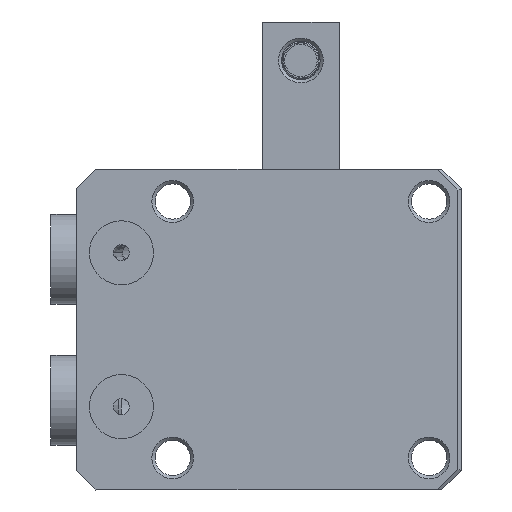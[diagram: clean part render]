
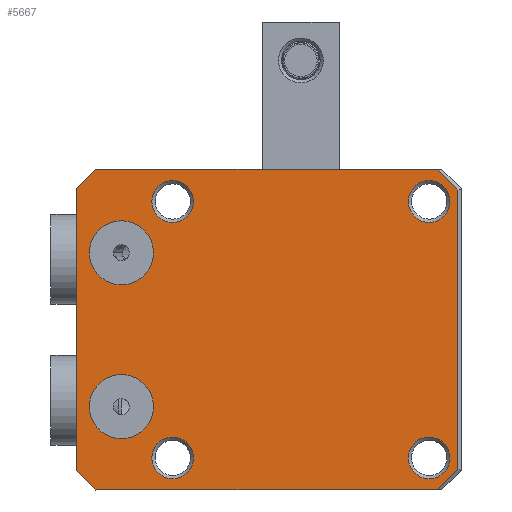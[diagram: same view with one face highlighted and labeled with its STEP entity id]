
A CAD part, front view. The second image highlights one B-rep face of the part: STEP entity #5667.
In plain terms, the highlighted planar face has unit normal (0, -1, 0).
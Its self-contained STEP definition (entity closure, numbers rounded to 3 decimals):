
#300=FACE_BOUND('',#846,.T.);
#301=FACE_BOUND('',#847,.T.);
#302=FACE_BOUND('',#848,.T.);
#303=FACE_BOUND('',#849,.T.);
#304=FACE_BOUND('',#850,.T.);
#305=FACE_BOUND('',#851,.T.);
#352=PLANE('',#6350);
#500=FACE_OUTER_BOUND('',#845,.T.);
#845=EDGE_LOOP('',(#4013,#4014,#4015,#4016,#4017,#4018,#4019,#4020));
#846=EDGE_LOOP('',(#4021));
#847=EDGE_LOOP('',(#4022));
#848=EDGE_LOOP('',(#4023));
#849=EDGE_LOOP('',(#4024));
#850=EDGE_LOOP('',(#4025));
#851=EDGE_LOOP('',(#4026));
#1240=LINE('',#9313,#1663);
#1252=LINE('',#9339,#1675);
#1253=LINE('',#9341,#1676);
#1254=LINE('',#9343,#1677);
#1255=LINE('',#9345,#1678);
#1256=LINE('',#9347,#1679);
#1257=LINE('',#9349,#1680);
#1258=LINE('',#9350,#1681);
#1663=VECTOR('',#7221,1000.);
#1675=VECTOR('',#7243,1000.);
#1676=VECTOR('',#7244,1000.);
#1677=VECTOR('',#7245,1000.);
#1678=VECTOR('',#7246,1000.);
#1679=VECTOR('',#7247,1000.);
#1680=VECTOR('',#7248,1000.);
#1681=VECTOR('',#7249,1000.);
#2050=CIRCLE('',#6275,5.);
#2052=CIRCLE('',#6278,5.);
#2055=CIRCLE('',#6282,3.25);
#2058=CIRCLE('',#6286,3.25);
#2061=CIRCLE('',#6290,3.25);
#2064=CIRCLE('',#6294,3.25);
#2435=VERTEX_POINT('',#8941);
#2437=VERTEX_POINT('',#8947);
#2440=VERTEX_POINT('',#8955);
#2443=VERTEX_POINT('',#8963);
#2446=VERTEX_POINT('',#8971);
#2449=VERTEX_POINT('',#8979);
#2504=VERTEX_POINT('',#9310);
#2505=VERTEX_POINT('',#9312);
#2514=VERTEX_POINT('',#9338);
#2515=VERTEX_POINT('',#9340);
#2516=VERTEX_POINT('',#9342);
#2517=VERTEX_POINT('',#9344);
#2518=VERTEX_POINT('',#9346);
#2519=VERTEX_POINT('',#9348);
#2989=EDGE_CURVE('',#2435,#2435,#2050,.T.);
#2992=EDGE_CURVE('',#2437,#2437,#2052,.T.);
#2996=EDGE_CURVE('',#2440,#2440,#2055,.T.);
#3000=EDGE_CURVE('',#2443,#2443,#2058,.T.);
#3004=EDGE_CURVE('',#2446,#2446,#2061,.T.);
#3008=EDGE_CURVE('',#2449,#2449,#2064,.T.);
#3083=EDGE_CURVE('',#2504,#2505,#1240,.T.);
#3096=EDGE_CURVE('',#2514,#2504,#1252,.T.);
#3097=EDGE_CURVE('',#2515,#2514,#1253,.T.);
#3098=EDGE_CURVE('',#2516,#2515,#1254,.T.);
#3099=EDGE_CURVE('',#2517,#2516,#1255,.T.);
#3100=EDGE_CURVE('',#2518,#2517,#1256,.T.);
#3101=EDGE_CURVE('',#2519,#2518,#1257,.T.);
#3102=EDGE_CURVE('',#2505,#2519,#1258,.T.);
#4013=ORIENTED_EDGE('',*,*,#3083,.F.);
#4014=ORIENTED_EDGE('',*,*,#3096,.F.);
#4015=ORIENTED_EDGE('',*,*,#3097,.F.);
#4016=ORIENTED_EDGE('',*,*,#3098,.F.);
#4017=ORIENTED_EDGE('',*,*,#3099,.F.);
#4018=ORIENTED_EDGE('',*,*,#3100,.F.);
#4019=ORIENTED_EDGE('',*,*,#3101,.F.);
#4020=ORIENTED_EDGE('',*,*,#3102,.F.);
#4021=ORIENTED_EDGE('',*,*,#2989,.F.);
#4022=ORIENTED_EDGE('',*,*,#2992,.F.);
#4023=ORIENTED_EDGE('',*,*,#2996,.F.);
#4024=ORIENTED_EDGE('',*,*,#3000,.F.);
#4025=ORIENTED_EDGE('',*,*,#3004,.F.);
#4026=ORIENTED_EDGE('',*,*,#3008,.F.);
#5667=ADVANCED_FACE('',(#500,#300,#301,#302,#303,#304,#305),#352,.F.);
#6275=AXIS2_PLACEMENT_3D('',#8943,#7039,#7040);
#6278=AXIS2_PLACEMENT_3D('',#8949,#7046,#7047);
#6282=AXIS2_PLACEMENT_3D('',#8957,#7055,#7056);
#6286=AXIS2_PLACEMENT_3D('',#8965,#7064,#7065);
#6290=AXIS2_PLACEMENT_3D('',#8973,#7073,#7074);
#6294=AXIS2_PLACEMENT_3D('',#8981,#7082,#7083);
#6350=AXIS2_PLACEMENT_3D('',#9337,#7241,#7242);
#7039=DIRECTION('center_axis',(0.,-1.,0.));
#7040=DIRECTION('ref_axis',(0.,0.,-1.));
#7046=DIRECTION('center_axis',(0.,-1.,0.));
#7047=DIRECTION('ref_axis',(0.,0.,-1.));
#7055=DIRECTION('center_axis',(0.,-1.,0.));
#7056=DIRECTION('ref_axis',(1.,0.,0.));
#7064=DIRECTION('center_axis',(0.,-1.,0.));
#7065=DIRECTION('ref_axis',(1.,0.,0.));
#7073=DIRECTION('center_axis',(0.,-1.,0.));
#7074=DIRECTION('ref_axis',(1.,0.,0.));
#7082=DIRECTION('center_axis',(0.,-1.,0.));
#7083=DIRECTION('ref_axis',(0.,0.,-1.));
#7221=DIRECTION('',(1.,0.,0.));
#7241=DIRECTION('center_axis',(0.,1.,0.));
#7242=DIRECTION('ref_axis',(0.,0.,1.));
#7243=DIRECTION('',(0.707,0.,0.707));
#7244=DIRECTION('',(0.,0.,1.));
#7245=DIRECTION('',(-0.707,0.,0.707));
#7246=DIRECTION('',(-1.,0.,0.));
#7247=DIRECTION('',(-0.707,0.,-0.707));
#7248=DIRECTION('',(0.,0.,-1.));
#7249=DIRECTION('',(0.707,0.,-0.707));
#8941=CARTESIAN_POINT('',(403.833,54.859,-7.));
#8943=CARTESIAN_POINT('Origin',(403.833,54.859,-12.));
#8947=CARTESIAN_POINT('',(403.833,54.859,17.));
#8949=CARTESIAN_POINT('Origin',(403.833,54.859,12.));
#8955=CARTESIAN_POINT('',(408.583,54.859,-20.));
#8957=CARTESIAN_POINT('Origin',(411.833,54.859,-20.));
#8963=CARTESIAN_POINT('',(448.583,54.859,-20.));
#8965=CARTESIAN_POINT('Origin',(451.833,54.859,-20.));
#8971=CARTESIAN_POINT('',(448.583,54.859,20.));
#8973=CARTESIAN_POINT('Origin',(451.833,54.859,20.));
#8979=CARTESIAN_POINT('',(411.833,54.859,23.25));
#8981=CARTESIAN_POINT('Origin',(411.833,54.859,20.));
#9310=CARTESIAN_POINT('',(399.833,54.859,25.));
#9312=CARTESIAN_POINT('',(453.126,54.859,25.));
#9313=CARTESIAN_POINT('',(399.833,54.859,25.));
#9337=CARTESIAN_POINT('Origin',(456.333,54.859,-25.));
#9338=CARTESIAN_POINT('',(396.833,54.859,22.));
#9339=CARTESIAN_POINT('',(396.833,54.859,22.));
#9340=CARTESIAN_POINT('',(396.833,54.859,-22.));
#9341=CARTESIAN_POINT('',(396.833,54.859,-25.));
#9342=CARTESIAN_POINT('',(399.833,54.859,-25.));
#9343=CARTESIAN_POINT('',(399.833,54.859,-25.));
#9344=CARTESIAN_POINT('',(453.126,54.859,-25.));
#9345=CARTESIAN_POINT('',(456.333,54.859,-25.));
#9346=CARTESIAN_POINT('',(456.333,54.859,-21.793));
#9347=CARTESIAN_POINT('',(456.333,54.859,-21.793));
#9348=CARTESIAN_POINT('',(456.333,54.859,21.793));
#9349=CARTESIAN_POINT('',(456.333,54.859,-25.));
#9350=CARTESIAN_POINT('',(453.126,54.859,25.));
